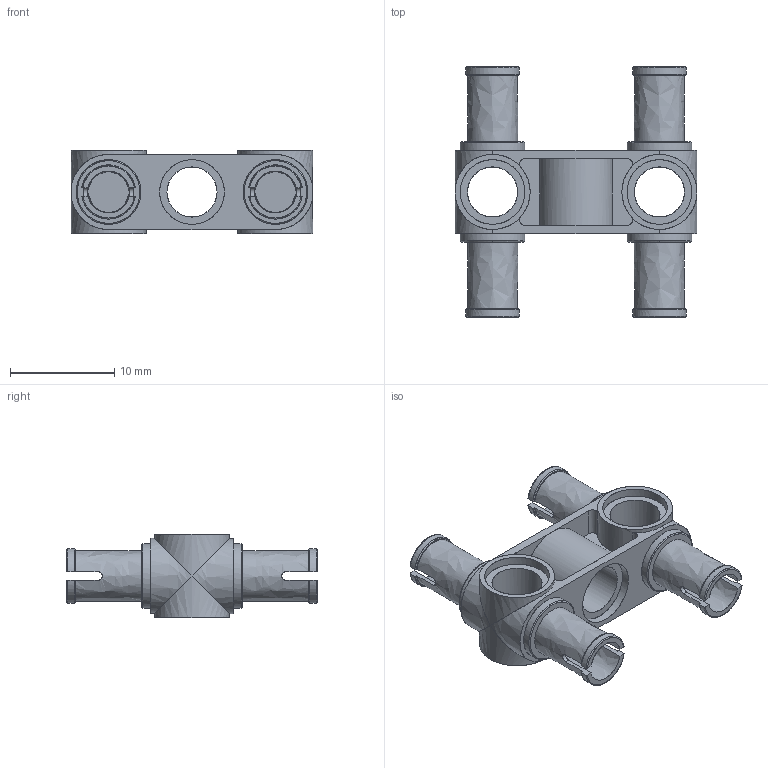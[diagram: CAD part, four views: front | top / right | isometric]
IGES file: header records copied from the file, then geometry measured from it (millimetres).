
Start section: C
Global section: file name: ClGray_4225033_AVV.iges; native system: By Siemens PLM Incorporated; preprocessor: XPlus GENERIC/IGES 26.1.183; author: Author; organization: Title; date: 20250721.235434; units: millimetre
Bounding box: 23.2 x 24 x 8 mm (x, y, z)
Surface area: 2161 mm2 (no closed solid volume)
Topology: 0 solids, 0 shells, 160 faces, 1220 edges, 1220 vertices
Faces by surface type: bspline 160
